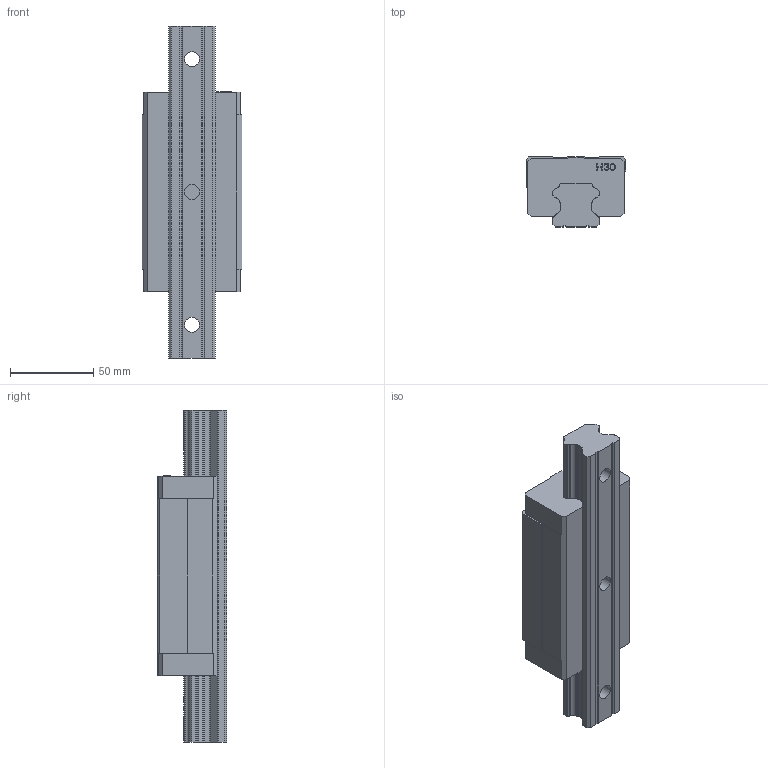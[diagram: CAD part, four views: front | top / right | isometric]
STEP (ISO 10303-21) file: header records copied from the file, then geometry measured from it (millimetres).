
FILE_DESCRIPTION(/* description */ (''),/* implementation_level */ '2;1');
FILE_NAME(/* name */ 'HGL30HA.stp',/* time_stamp */ '2021-04-14T20:19:49+08:00',/* author */ (''),/* organization */ (''),/* preprocessor_version */ 'ST-DEVELOPER v15',/* originating_system */ 'SIEMENS PLM Software NX 8.5',/* authorisation */ '');
FILE_SCHEMA (('CONFIG_CONTROL_DESIGN'));
Length unit declared in the file: millimetre
Products named in the file (1): _model1
Bounding box: 60 x 42 x 200 mm (x, y, z)
Volume: 311188.9 mm3; surface area: 57754.5 mm2
Topology: 2 solids, 2 shells, 266 faces, 756 edges, 505 vertices
Faces by surface type: plane 214, cylinder 52
Full cylindrical faces by diameter (mm): 8 x4, 9 x3, 14 x3
Entity records: 8572 total; most frequent: CARTESIAN_POINT 1525, ORIENTED_EDGE 1486, DIRECTION 1368, EDGE_CURVE 743, LINE 626, VECTOR 626, VERTEX_POINT 502, AXIS2_PLACEMENT_3D 371
